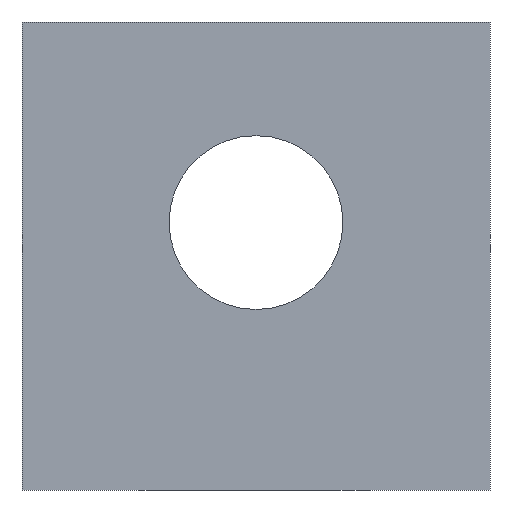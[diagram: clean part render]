
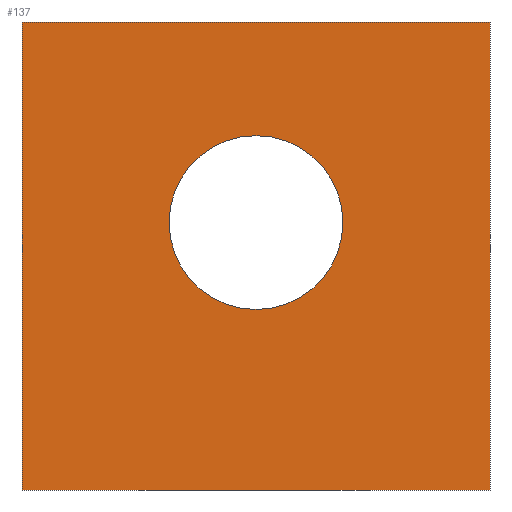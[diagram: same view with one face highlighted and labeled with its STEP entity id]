
A CAD part, front view. The second image highlights one B-rep face of the part: STEP entity #137.
In plain terms, the highlighted planar face has unit normal (0, -1, 0).
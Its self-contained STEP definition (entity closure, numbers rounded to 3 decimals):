
#21 = EDGE_CURVE('',#22,#24,#26,.T.);
#22 = VERTEX_POINT('',#23);
#23 = CARTESIAN_POINT('',(-14.,-12.,-16.));
#24 = VERTEX_POINT('',#25);
#25 = CARTESIAN_POINT('',(-14.,-12.,12.));
#26 = SURFACE_CURVE('',#27,(#31,#43),.PCURVE_S1.);
#27 = LINE('',#28,#29);
#28 = CARTESIAN_POINT('',(-14.,-12.,-16.));
#29 = VECTOR('',#30,1.);
#30 = DIRECTION('',(0.,0.,1.));
#31 = PCURVE('',#32,#37);
#32 = PLANE('',#33);
#33 = AXIS2_PLACEMENT_3D('',#34,#35,#36);
#34 = CARTESIAN_POINT('',(-14.,-12.,-16.));
#35 = DIRECTION('',(1.,0.,0.));
#36 = DIRECTION('',(0.,0.,1.));
#37 = DEFINITIONAL_REPRESENTATION('',(#38),#42);
#38 = LINE('',#39,#40);
#39 = CARTESIAN_POINT('',(0.,0.));
#40 = VECTOR('',#41,1.);
#41 = DIRECTION('',(1.,0.));
#42 = ( GEOMETRIC_REPRESENTATION_CONTEXT(2) 
PARAMETRIC_REPRESENTATION_CONTEXT() REPRESENTATION_CONTEXT('2D SPACE',''
  ) );
#43 = PCURVE('',#44,#49);
#44 = PLANE('',#45);
#45 = AXIS2_PLACEMENT_3D('',#46,#47,#48);
#46 = CARTESIAN_POINT('',(-14.,-12.,-16.));
#47 = DIRECTION('',(0.,1.,0.));
#48 = DIRECTION('',(0.,0.,1.));
#49 = DEFINITIONAL_REPRESENTATION('',(#50),#54);
#50 = LINE('',#51,#52);
#51 = CARTESIAN_POINT('',(0.,0.));
#52 = VECTOR('',#53,1.);
#53 = DIRECTION('',(1.,0.));
#54 = ( GEOMETRIC_REPRESENTATION_CONTEXT(2) 
PARAMETRIC_REPRESENTATION_CONTEXT() REPRESENTATION_CONTEXT('2D SPACE',''
  ) );
#72 = PLANE('',#73);
#73 = AXIS2_PLACEMENT_3D('',#74,#75,#76);
#74 = CARTESIAN_POINT('',(-14.,-12.,-16.));
#75 = DIRECTION('',(0.,0.,1.));
#76 = DIRECTION('',(1.,0.,0.));
#126 = PLANE('',#127);
#127 = AXIS2_PLACEMENT_3D('',#128,#129,#130);
#128 = CARTESIAN_POINT('',(-14.,-12.,12.));
#129 = DIRECTION('',(0.,0.,1.));
#130 = DIRECTION('',(1.,0.,0.));
#137 = ADVANCED_FACE('',(#138,#213),#44,.F.);
#138 = FACE_BOUND('',#139,.F.);
#139 = EDGE_LOOP('',(#140,#163,#164,#187));
#140 = ORIENTED_EDGE('',*,*,#141,.F.);
#141 = EDGE_CURVE('',#22,#142,#144,.T.);
#142 = VERTEX_POINT('',#143);
#143 = CARTESIAN_POINT('',(14.,-12.,-16.));
#144 = SURFACE_CURVE('',#145,(#149,#156),.PCURVE_S1.);
#145 = LINE('',#146,#147);
#146 = CARTESIAN_POINT('',(-14.,-12.,-16.));
#147 = VECTOR('',#148,1.);
#148 = DIRECTION('',(1.,0.,0.));
#149 = PCURVE('',#44,#150);
#150 = DEFINITIONAL_REPRESENTATION('',(#151),#155);
#151 = LINE('',#152,#153);
#152 = CARTESIAN_POINT('',(0.,0.));
#153 = VECTOR('',#154,1.);
#154 = DIRECTION('',(0.,1.));
#155 = ( GEOMETRIC_REPRESENTATION_CONTEXT(2) 
PARAMETRIC_REPRESENTATION_CONTEXT() REPRESENTATION_CONTEXT('2D SPACE',''
  ) );
#156 = PCURVE('',#72,#157);
#157 = DEFINITIONAL_REPRESENTATION('',(#158),#162);
#158 = LINE('',#159,#160);
#159 = CARTESIAN_POINT('',(0.,0.));
#160 = VECTOR('',#161,1.);
#161 = DIRECTION('',(1.,0.));
#162 = ( GEOMETRIC_REPRESENTATION_CONTEXT(2) 
PARAMETRIC_REPRESENTATION_CONTEXT() REPRESENTATION_CONTEXT('2D SPACE',''
  ) );
#163 = ORIENTED_EDGE('',*,*,#21,.T.);
#164 = ORIENTED_EDGE('',*,*,#165,.T.);
#165 = EDGE_CURVE('',#24,#166,#168,.T.);
#166 = VERTEX_POINT('',#167);
#167 = CARTESIAN_POINT('',(14.,-12.,12.));
#168 = SURFACE_CURVE('',#169,(#173,#180),.PCURVE_S1.);
#169 = LINE('',#170,#171);
#170 = CARTESIAN_POINT('',(-14.,-12.,12.));
#171 = VECTOR('',#172,1.);
#172 = DIRECTION('',(1.,0.,0.));
#173 = PCURVE('',#44,#174);
#174 = DEFINITIONAL_REPRESENTATION('',(#175),#179);
#175 = LINE('',#176,#177);
#176 = CARTESIAN_POINT('',(28.,0.));
#177 = VECTOR('',#178,1.);
#178 = DIRECTION('',(0.,1.));
#179 = ( GEOMETRIC_REPRESENTATION_CONTEXT(2) 
PARAMETRIC_REPRESENTATION_CONTEXT() REPRESENTATION_CONTEXT('2D SPACE',''
  ) );
#180 = PCURVE('',#126,#181);
#181 = DEFINITIONAL_REPRESENTATION('',(#182),#186);
#182 = LINE('',#183,#184);
#183 = CARTESIAN_POINT('',(0.,0.));
#184 = VECTOR('',#185,1.);
#185 = DIRECTION('',(1.,0.));
#186 = ( GEOMETRIC_REPRESENTATION_CONTEXT(2) 
PARAMETRIC_REPRESENTATION_CONTEXT() REPRESENTATION_CONTEXT('2D SPACE',''
  ) );
#187 = ORIENTED_EDGE('',*,*,#188,.F.);
#188 = EDGE_CURVE('',#142,#166,#189,.T.);
#189 = SURFACE_CURVE('',#190,(#194,#201),.PCURVE_S1.);
#190 = LINE('',#191,#192);
#191 = CARTESIAN_POINT('',(14.,-12.,-16.));
#192 = VECTOR('',#193,1.);
#193 = DIRECTION('',(0.,0.,1.));
#194 = PCURVE('',#44,#195);
#195 = DEFINITIONAL_REPRESENTATION('',(#196),#200);
#196 = LINE('',#197,#198);
#197 = CARTESIAN_POINT('',(0.,28.));
#198 = VECTOR('',#199,1.);
#199 = DIRECTION('',(1.,0.));
#200 = ( GEOMETRIC_REPRESENTATION_CONTEXT(2) 
PARAMETRIC_REPRESENTATION_CONTEXT() REPRESENTATION_CONTEXT('2D SPACE',''
  ) );
#201 = PCURVE('',#202,#207);
#202 = PLANE('',#203);
#203 = AXIS2_PLACEMENT_3D('',#204,#205,#206);
#204 = CARTESIAN_POINT('',(14.,-12.,-16.));
#205 = DIRECTION('',(1.,0.,0.));
#206 = DIRECTION('',(0.,0.,1.));
#207 = DEFINITIONAL_REPRESENTATION('',(#208),#212);
#208 = LINE('',#209,#210);
#209 = CARTESIAN_POINT('',(0.,0.));
#210 = VECTOR('',#211,1.);
#211 = DIRECTION('',(1.,0.));
#212 = ( GEOMETRIC_REPRESENTATION_CONTEXT(2) 
PARAMETRIC_REPRESENTATION_CONTEXT() REPRESENTATION_CONTEXT('2D SPACE',''
  ) );
#213 = FACE_BOUND('',#214,.F.);
#214 = EDGE_LOOP('',(#215));
#215 = ORIENTED_EDGE('',*,*,#216,.F.);
#216 = EDGE_CURVE('',#217,#217,#219,.T.);
#217 = VERTEX_POINT('',#218);
#218 = CARTESIAN_POINT('',(5.2,-12.,0.));
#219 = SURFACE_CURVE('',#220,(#225,#232),.PCURVE_S1.);
#220 = CIRCLE('',#221,5.2);
#221 = AXIS2_PLACEMENT_3D('',#222,#223,#224);
#222 = CARTESIAN_POINT('',(0.,-12.,0.));
#223 = DIRECTION('',(-0.,1.,0.));
#224 = DIRECTION('',(1.,0.,0.));
#225 = PCURVE('',#44,#226);
#226 = DEFINITIONAL_REPRESENTATION('',(#227),#231);
#227 = CIRCLE('',#228,5.2);
#228 = AXIS2_PLACEMENT_2D('',#229,#230);
#229 = CARTESIAN_POINT('',(16.,14.));
#230 = DIRECTION('',(0.,1.));
#231 = ( GEOMETRIC_REPRESENTATION_CONTEXT(2) 
PARAMETRIC_REPRESENTATION_CONTEXT() REPRESENTATION_CONTEXT('2D SPACE',''
  ) );
#232 = PCURVE('',#233,#238);
#233 = CYLINDRICAL_SURFACE('',#234,5.2);
#234 = AXIS2_PLACEMENT_3D('',#235,#236,#237);
#235 = CARTESIAN_POINT('',(0.,13.,0.));
#236 = DIRECTION('',(-0.,1.,-0.));
#237 = DIRECTION('',(1.,0.,0.));
#238 = DEFINITIONAL_REPRESENTATION('',(#239),#243);
#239 = LINE('',#240,#241);
#240 = CARTESIAN_POINT('',(-6.283,-25.));
#241 = VECTOR('',#242,1.);
#242 = DIRECTION('',(1.,-0.));
#243 = ( GEOMETRIC_REPRESENTATION_CONTEXT(2) 
PARAMETRIC_REPRESENTATION_CONTEXT() REPRESENTATION_CONTEXT('2D SPACE',''
  ) );
